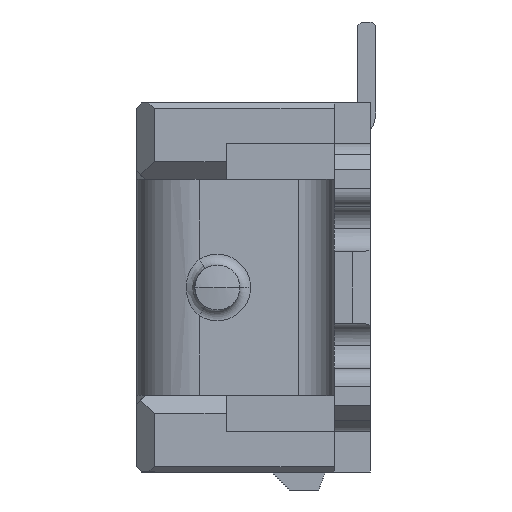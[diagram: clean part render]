
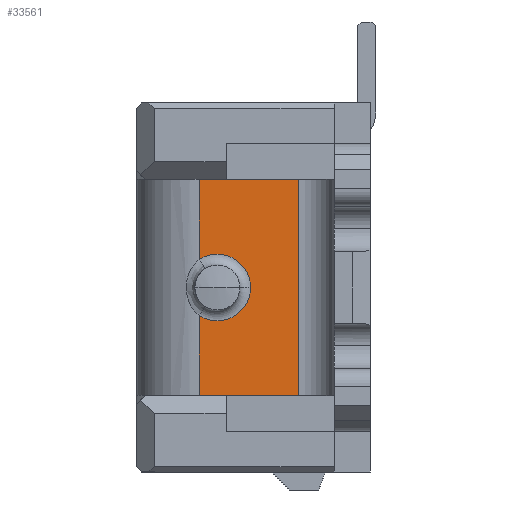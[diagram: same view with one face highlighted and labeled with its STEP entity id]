
A CAD part, left-side view. The second image highlights one B-rep face of the part: STEP entity #33561.
In plain terms, the highlighted planar face has unit normal (-1, 0, 0).
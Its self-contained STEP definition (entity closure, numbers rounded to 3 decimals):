
#10816 = VECTOR ( 'NONE', #10817, 1000. ) ;
#10817 = DIRECTION ( 'NONE',  ( 0., 0., 1. ) ) ;
#11298 = EDGE_CURVE ( 'NONE', #11369, #11381, #22622, .T. ) ;
#11369 = VERTEX_POINT ( 'NONE', #22646 ) ;
#11381 = VERTEX_POINT ( 'NONE', #22809 ) ;
#12609 = CARTESIAN_POINT ( 'NONE',  ( -9.8, 0.95, -0.8 ) ) ;
#12610 = LINE ( 'NONE', #12609, #10816 ) ;
#22464 = DIRECTION ( 'NONE',  ( 0., -1., 0. ) ) ;
#22465 = DIRECTION ( 'NONE',  ( 1., 0., 0. ) ) ;
#22469 = CARTESIAN_POINT ( 'NONE',  ( -9.8, 0.85, 0. ) ) ;
#22521 = AXIS2_PLACEMENT_3D ( 'NONE', #22469, #22465, #22464 ) ;
#22622 = CIRCLE ( 'NONE', #22521, 0.185 ) ;
#22646 = CARTESIAN_POINT ( 'NONE',  ( -9.8, 0.665, 0. ) ) ;
#22809 = CARTESIAN_POINT ( 'NONE',  ( -9.8, 0.95, -0.156 ) ) ;
#26171 = LINE ( 'NONE', #26172, #26182 ) ;
#26172 = CARTESIAN_POINT ( 'NONE',  ( -9.8, 0.95, -0.8 ) ) ;
#26178 = DIRECTION ( 'NONE',  ( 0., 0., 1. ) ) ;
#26182 = VECTOR ( 'NONE', #26178, 1000. ) ;
#26286 = CARTESIAN_POINT ( 'NONE',  ( -9.8, 0.95, 0.156 ) ) ;
#28514 = DIRECTION ( 'NONE',  ( 0., 1., 0. ) ) ;
#28515 = LINE ( 'NONE', #28517, #28518 ) ;
#28517 = CARTESIAN_POINT ( 'NONE',  ( -9.8, 0.4, 0.6 ) ) ;
#28518 = VECTOR ( 'NONE', #28514, 1000. ) ;
#28540 = CARTESIAN_POINT ( 'NONE',  ( -9.8, 0.4, -0.6 ) ) ;
#28657 = CARTESIAN_POINT ( 'NONE',  ( -9.8, 0.95, -0.6 ) ) ;
#28666 = VECTOR ( 'NONE', #28669, 1000. ) ;
#28667 = LINE ( 'NONE', #28672, #28666 ) ;
#28669 = DIRECTION ( 'NONE',  ( 0., -1., 0. ) ) ;
#28672 = CARTESIAN_POINT ( 'NONE',  ( -9.8, 0.4, -0.6 ) ) ;
#28851 = CARTESIAN_POINT ( 'NONE',  ( -9.8, 0.4, 0.6 ) ) ;
#30861 = CARTESIAN_POINT ( 'NONE',  ( -9.8, 0.95, 0.6 ) ) ;
#31867 = DIRECTION ( 'NONE',  ( 0., -1., 0. ) ) ;
#31868 = DIRECTION ( 'NONE',  ( 1., 0., 0. ) ) ;
#31870 = AXIS2_PLACEMENT_3D ( 'NONE', #31872, #31868, #31867 ) ;
#31872 = CARTESIAN_POINT ( 'NONE',  ( -9.8, 0.4, -0.8 ) ) ;
#31873 = CARTESIAN_POINT ( 'NONE',  ( -9.8, 0.85, 0. ) ) ;
#31874 = DIRECTION ( 'NONE',  ( 0., -1., 0. ) ) ;
#31875 = DIRECTION ( 'NONE',  ( 1., 0., 0. ) ) ;
#31877 = PLANE ( 'NONE',  #31870 ) ;
#31880 = AXIS2_PLACEMENT_3D ( 'NONE', #31873, #31875, #31874 ) ;
#31883 = CIRCLE ( 'NONE', #31880, 0.185 ) ;
#31897 = FACE_OUTER_BOUND ( 'NONE', #33541, .T. ) ;
#32223 = VECTOR ( 'NONE', #32342, 1000. ) ;
#32268 = LINE ( 'NONE', #32484, #32223 ) ;
#32342 = DIRECTION ( 'NONE',  ( 0., 0., 1. ) ) ;
#32484 = CARTESIAN_POINT ( 'NONE',  ( -9.8, 0.4, -0.8 ) ) ;
#32784 = VERTEX_POINT ( 'NONE', #28851 ) ;
#32816 = EDGE_CURVE ( 'NONE', #32846, #32847, #28667, .T. ) ;
#32830 = EDGE_CURVE ( 'NONE', #32784, #32934, #28515, .T. ) ;
#32846 = VERTEX_POINT ( 'NONE', #28657 ) ;
#32847 = VERTEX_POINT ( 'NONE', #28540 ) ;
#32934 = VERTEX_POINT ( 'NONE', #30861 ) ;
#33526 = EDGE_CURVE ( 'NONE', #32846, #11381, #12610, .T. ) ;
#33535 = ORIENTED_EDGE ( 'NONE', *, *, #32816, .T. ) ;
#33541 = EDGE_LOOP ( 'NONE', ( #33610, #33615, #33563, #33565, #33535, #33564, #33559 ) ) ;
#33559 = ORIENTED_EDGE ( 'NONE', *, *, #32830, .T. ) ;
#33560 = EDGE_CURVE ( 'NONE', #33710, #11369, #31883, .T. ) ;
#33561 = ADVANCED_FACE ( 'NONE', ( #31897 ), #31877, .F. ) ;
#33563 = ORIENTED_EDGE ( 'NONE', *, *, #11298, .T. ) ;
#33564 = ORIENTED_EDGE ( 'NONE', *, *, #33566, .T. ) ;
#33565 = ORIENTED_EDGE ( 'NONE', *, *, #33526, .F. ) ;
#33566 = EDGE_CURVE ( 'NONE', #32847, #32784, #32268, .T. ) ;
#33610 = ORIENTED_EDGE ( 'NONE', *, *, #33700, .F. ) ;
#33615 = ORIENTED_EDGE ( 'NONE', *, *, #33560, .T. ) ;
#33700 = EDGE_CURVE ( 'NONE', #33710, #32934, #26171, .T. ) ;
#33710 = VERTEX_POINT ( 'NONE', #26286 ) ;
